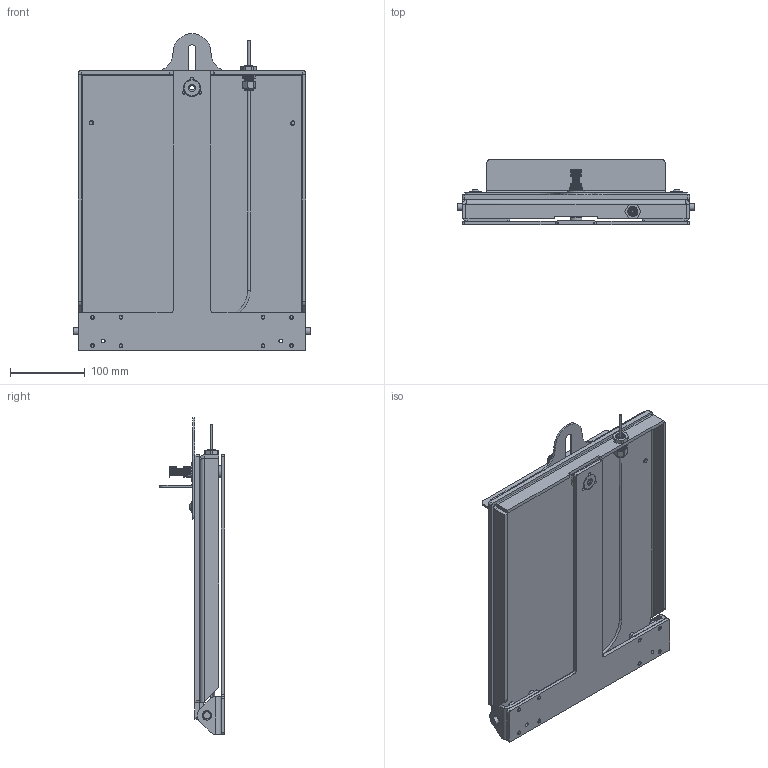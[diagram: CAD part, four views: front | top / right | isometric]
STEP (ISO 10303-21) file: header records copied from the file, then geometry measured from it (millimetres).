
FILE_DESCRIPTION (( 'STEP AP214' ), '1' );
FILE_NAME ('2305.STEP', '2022-01-07T17:50:36', ( '' ), ( '' ), 'SwSTEP 2.0', 'SolidWorks 2019', '' );
FILE_SCHEMA (( 'AUTOMOTIVE_DESIGN' ));
Length unit declared in the file: inch
Products named in the file (1): 2305
Bounding box: 317.5 x 87.99 x 424.56 mm (x, y, z)
Surface area: 547415.3 mm2 (no closed solid volume)
Topology: 0 solids, 84 shells, 594 faces, 2924 edges, 2345 vertices
Faces by surface type: plane 335, cylinder 139, cone 76, bspline 43, torus 1
Full cylindrical faces by diameter (mm): 3.302 x1, 5.08 x2, 5.105 x8, 6.731 x1, 7.137 x1, 9.525 x9, 9.652 x1, 11.049 x5, 11.1 x2, 12.268 x1, 15.85 x1, 15.875 x2, 16.002 x1, 17.462 x2, 22.225 x1, 25.4 x1, 31.242 x1
Entity records: 53601 total; most frequent: CARTESIAN_POINT 25693, ORIENTED_EDGE 3770, DIRECTION 3425, EDGE_CURVE 2799, VERTEX_POINT 2304, LINE 1465, VECTOR 1465, AXIS2_PLACEMENT_3D 980
